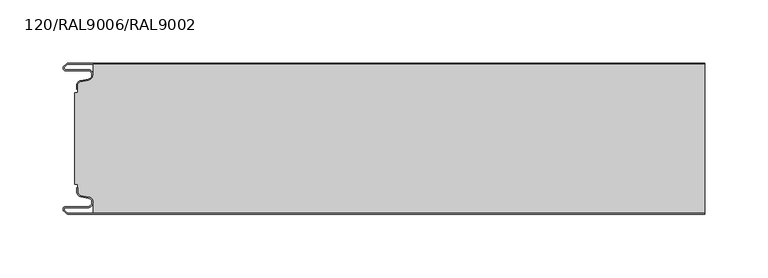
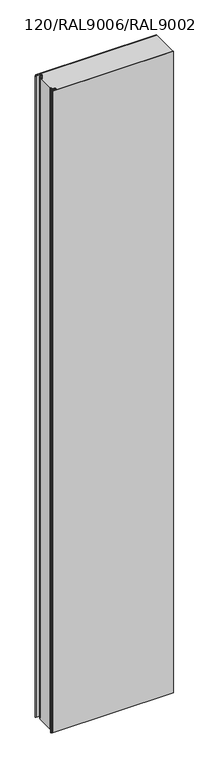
"""IFC4 building model written with IfcOpenShell, lengths in millimetres: plate geometry, TR_C_V_FTV_Panel_cut_GROOVE : 120/RAL9006/RAL9002."""

import ifcopenshell
import ifcopenshell.guid

model = None  # the IFC model being written
_history = None  # IfcOwnerHistory: only IFC2X3 demands one
_inside = {}  # id of a spatial element -> (the spatial element, [elements in it])
_under = {}  # id of a project, library or spatial element -> (it, [spatial elements below it])
_declared = {}  # id of a project -> (the project, [libraries it declares])
_typed = {}  # id of a type object -> (the type object, [elements of that type])
_made_of = {}  # id of a material, layer set ... -> (it, [elements and type objects made of it])


def new_model(schema):
    """Start an empty IFC model of exactly this schema.

    Asked for "IFC4X3", IfcOpenShell would pick the latest addendum, in which some entities
    have other attributes; the version numbers below select the first issue.
    IFC2X3 requires an IfcOwnerHistory on every rooted entity: one is made here for all.
    """
    global model, _history
    if schema == "IFC4X3":
        model = ifcopenshell.file(schema_version=(4, 3, 0, 0))
    else:
        model = ifcopenshell.file(schema=schema)
    _inside.clear()
    _under.clear()
    _declared.clear()
    _typed.clear()
    _made_of.clear()
    _history = None
    if model.schema == "IFC2X3":
        org = make("IfcOrganization", Name="unknown")
        user = make(
            "IfcPersonAndOrganization",
            ThePerson=make("IfcPerson", FamilyName="unknown"),
            TheOrganization=org,
        )
        app = make(
            "IfcApplication",
            ApplicationDeveloper=org,
            Version="unknown",
            ApplicationFullName="unknown",
            ApplicationIdentifier="unknown",
        )
        _history = make(
            "IfcOwnerHistory",
            OwningUser=user,
            OwningApplication=app,
            ChangeAction="ADDED",
            CreationDate=0,
        )
    return model


def make(cls, **values):
    """One entity of the class cls with the attributes given. An attribute that is None is left unset."""
    return model.create_entity(
        cls, **{name: value for name, value in values.items() if value is not None}
    )


def rooted(cls, **values):
    """An entity with a GlobalId (a new one), such as an element, a storey or a relation."""
    return make(cls, GlobalId=ifcopenshell.guid.new(), OwnerHistory=_history, **values)


def si_unit(unit_type, name, prefix=None):
    """IfcSIUnit, for example si_unit("LENGTHUNIT", "METRE", prefix="MILLI")."""
    return make("IfcSIUnit", UnitType=unit_type, Prefix=prefix, Name=name)


def assignment(units):
    """IfcUnitAssignment: the units of a project."""
    return None if units is None else make("IfcUnitAssignment", Units=units)


def point(xyz):
    """IfcCartesianPoint."""
    return None if xyz is None else make("IfcCartesianPoint", Coordinates=xyz)


def direction(xyz):
    """IfcDirection."""
    return None if xyz is None else make("IfcDirection", DirectionRatios=xyz)


def frame(location, z_axis=None, x_axis=None):
    """IfcAxis2Placement3D, a coordinate frame: its origin and axes. An axis left out is left unset."""
    return make(
        "IfcAxis2Placement3D",
        Location=point(location),
        Axis=direction(z_axis),
        RefDirection=direction(x_axis),
    )


def frame_2d(location, x_axis=None):
    """IfcAxis2Placement2D, a coordinate frame in the plane: its origin and x axis."""
    return make(
        "IfcAxis2Placement2D", Location=point(location), RefDirection=direction(x_axis)
    )


def origin():
    """The frame at (0, 0, 0) with its axes left unset."""
    return frame((0.0, 0.0, 0.0))


def origin_with_axes():
    """The frame at (0, 0, 0) with the z axis (0, 0, 1) and the x axis (1, 0, 0) written out."""
    return frame((0.0, 0.0, 0.0), z_axis=(0.0, 0.0, 1.0), x_axis=(1.0, 0.0, 0.0))


def place(relative_to, where):
    """IfcLocalPlacement: puts the frame where relative to a parent placement (None: the world)."""
    return make(
        "IfcLocalPlacement", PlacementRelTo=relative_to, RelativePlacement=where
    )


def context(
    kind, dimensions, precision=None, world=None, true_north=None, identifier=None
):
    """IfcGeometricRepresentationContext, for example the 3D "Model" context."""
    return make(
        "IfcGeometricRepresentationContext",
        ContextIdentifier=identifier,
        ContextType=kind,
        CoordinateSpaceDimension=dimensions,
        Precision=precision,
        WorldCoordinateSystem=world,
        TrueNorth=true_north,
    )


def project(units=None, contexts=None):
    """IfcProject with its units and contexts."""
    return rooted(
        "IfcProject",
        Name="project",
        RepresentationContexts=contexts,
        UnitsInContext=assignment(units),
    )


def spatial(cls, under=None, at=None, **own):
    """A site, building, storey or space (cls), placed at a placement, below another one or the project."""
    s = rooted(cls, ObjectPlacement=at, **own)
    if under is not None:
        _under.setdefault(under.id(), (under, []))[1].append(s)
    return s


def polyline(points):
    """IfcPolyline through the points."""
    return make("IfcPolyline", Points=[point(p) for p in points])


def circle_curve(where, radius):
    """IfcCircle in the frame where."""
    return make("IfcCircle", Position=where, Radius=radius)


def trimmed(basis, trim1, trim2, sense, master):
    """IfcTrimmedCurve: the piece of a basis curve between two trims."""
    return make(
        "IfcTrimmedCurve",
        BasisCurve=basis,
        Trim1=trim1,
        Trim2=trim2,
        SenseAgreement=sense,
        MasterRepresentation=master,
    )


def segment(curve, same_sense, transition):
    """IfcCompositeCurveSegment."""
    return make(
        "IfcCompositeCurveSegment",
        Transition=transition,
        SameSense=same_sense,
        ParentCurve=curve,
    )


def composite_curve(segments, self_intersect=None):
    """IfcCompositeCurve: segments joined end to end."""
    return make("IfcCompositeCurve", Segments=segments, SelfIntersect=self_intersect)


def outline(outer, holes=None, kind="AREA"):
    """IfcArbitraryClosedProfileDef: a profile drawn as a closed curve; with holes, ...WithVoids."""
    if holes is None:
        return make("IfcArbitraryClosedProfileDef", ProfileType=kind, OuterCurve=outer)
    return make(
        "IfcArbitraryProfileDefWithVoids",
        ProfileType=kind,
        OuterCurve=outer,
        InnerCurves=holes,
    )


def extrude(swept, where, along, depth):
    """IfcExtrudedAreaSolid: the profile swept, set in the frame where, extruded along a direction by depth."""
    return make(
        "IfcExtrudedAreaSolid",
        SweptArea=swept,
        Position=where,
        ExtrudedDirection=direction(along),
        Depth=depth,
    )


def shape(context_of_items, identifier, shape_type, items):
    """IfcShapeRepresentation: the items that make up one representation, for example the "Body"."""
    return make(
        "IfcShapeRepresentation",
        ContextOfItems=context_of_items,
        RepresentationIdentifier=identifier,
        RepresentationType=shape_type,
        Items=items,
    )


def source(mapping_origin, context_of_items, identifier, shape_type, items):
    """IfcRepresentationMap: a shape defined once, which mapped items show again and again."""
    return make(
        "IfcRepresentationMap",
        MappingOrigin=mapping_origin,
        MappedRepresentation=shape(context_of_items, identifier, shape_type, items),
    )


def transform(
    local_origin,
    x_axis=None,
    y_axis=None,
    z_axis=None,
    scale=None,
    scale2=None,
    scale3=None,
    uniform=True,
):
    """IfcCartesianTransformationOperator3D, or its non-uniform kind. x_axis, y_axis, z_axis: its Axis1, 2, 3."""
    if uniform:
        return make(
            "IfcCartesianTransformationOperator3D",
            Axis1=direction(x_axis),
            Axis2=direction(y_axis),
            LocalOrigin=point(local_origin),
            Scale=scale,
            Axis3=direction(z_axis),
        )
    return make(
        "IfcCartesianTransformationOperator3DnonUniform",
        Axis1=direction(x_axis),
        Axis2=direction(y_axis),
        LocalOrigin=point(local_origin),
        Scale=scale,
        Axis3=direction(z_axis),
        Scale2=scale2,
        Scale3=scale3,
    )


def mapped(mapping_source, mapping_target):
    """IfcMappedItem: shows the shape of a source again, moved by a transform."""
    return make(
        "IfcMappedItem", MappingSource=mapping_source, MappingTarget=mapping_target
    )


def made_of(thing, what):
    """Note that an element or type object is made of a material, layer set ...; save() writes the relation."""
    if what is not None:
        _made_of.setdefault(what.id(), (what, []))[1].append(thing)
    return thing


def element(
    cls,
    number,
    at=None,
    inside=None,
    cuts=None,
    type_object=None,
    material=None,
    context=None,
    identifier="Body",
    shape_type=None,
    held_by="IfcProductDefinitionShape",
    body=None,
    shapes=None,
    **own,
):
    """One element of the class cls, such as IfcWall. Its Tag is "e" and its number.

    at: its placement. inside: the storey or other place that contains it. cuts: it is an
    opening in that element (IfcRelVoidsElement). A single representation is given by context,
    identifier, shape_type and body (its items); several are given by shapes. held_by: the class
    of the entity that holds the representations. save() writes the other relations.
    """
    e = rooted(cls, Tag="e%d" % number, ObjectPlacement=at, **own)
    if body is not None:
        shapes = [shape(context, identifier, shape_type, body)]
    if shapes is not None:
        e.Representation = make(held_by, Representations=shapes)
    if inside is not None:
        _inside.setdefault(inside.id(), (inside, []))[1].append(e)
    if cuts is not None:
        rooted(
            "IfcRelVoidsElement", RelatingBuildingElement=cuts, RelatedOpeningElement=e
        )
    if type_object is not None:
        _typed.setdefault(type_object.id(), (type_object, []))[1].append(e)
    return made_of(e, material)


def aggregate(whole, parts):
    """IfcRelAggregates: a whole, such as a stair, and the parts it consists of."""
    return rooted("IfcRelAggregates", RelatingObject=whole, RelatedObjects=parts)


def save(model, path):
    """Write the relations noted so far, then the file.

    IfcRelAggregates (storeys below a building ...), IfcRelContainedInSpatialStructure (elements
    in a storey), IfcRelDefinesByType, IfcRelAssociatesMaterial and IfcRelDeclares: one each for
    every whole, place, type object, material and project.
    """
    for whole, parts in _under.values():
        aggregate(whole, parts)
    for where, things in _inside.values():
        rooted(
            "IfcRelContainedInSpatialStructure",
            RelatedElements=things,
            RelatingStructure=where,
        )
    for kind, things in _typed.values():
        rooted("IfcRelDefinesByType", RelatedObjects=things, RelatingType=kind)
    for what, things in _made_of.values():
        rooted("IfcRelAssociatesMaterial", RelatedObjects=things, RelatingMaterial=what)
    for by, libraries in _declared.values():
        rooted("IfcRelDeclares", RelatingContext=by, RelatedDefinitions=libraries)
    model.write(path)


def plate_120_ral9006_ral9002_0a61fb57(model_context):
    return source(origin(), model_context, "Body", "SweptSolid", [
        extrude(outline(composite_curve([segment(trimmed(circle_curve(frame_2d((-255.0186281, -117.25)), 2.75), [point((-255.0186281, -120.0))], [point((-256.9631718, -119.1945436))], False, "CARTESIAN"), True, "CONTINUOUS"), segment(polyline([(-256.9631718, -119.1945436), (-258.8288572, -117.3288582)]), True, "CONTINUOUS"), segment(trimmed(circle_curve(frame_2d((-257.449999, -115.95)), 1.95), [point((-258.8288572, -117.3288582))], [point((-257.449999, -114.0))], False, "CARTESIAN"), True, "CONTINUOUS"), segment(polyline([(-257.449999, -114.0), (-239.849999, -114.0)]), True, "CONTINUOUS"), segment(trimmed(circle_curve(frame_2d((-239.849999, -110.55)), 3.45), [point((-239.849999, -114.0))], [point((-239.2509128, -107.1524133))], True, "CARTESIAN"), True, "CONTINUOUS"), segment(polyline([(-239.2509128, -107.1524133), (-245.3011797, -106.085588)]), True, "CONTINUOUS"), segment(trimmed(circle_curve(frame_2d((-244.649999, -102.3925589)), 3.75), [point((-245.3011797, -106.085588))], [point((-248.399999, -102.3925589))], False, "CARTESIAN"), True, "CONTINUOUS"), segment(polyline([(-248.399999, -102.3925589), (-248.399999, -99.0), (-247.599999, -99.0), (-247.599999, -102.3925589)]), True, "CONTINUOUS"), segment(trimmed(circle_curve(frame_2d((-244.649999, -102.3925589)), 2.95), [point((-247.599999, -102.3925589))], [point((-245.1622611, -105.2977418))], True, "CARTESIAN"), True, "CONTINUOUS"), segment(polyline([(-245.1622611, -105.2977418), (-239.1119942, -106.364567)]), True, "CONTINUOUS"), segment(trimmed(circle_curve(frame_2d((-239.849999, -110.55)), 4.25), [point((-239.1119942, -106.364567))], [point((-239.849999, -114.8))], False, "CARTESIAN"), True, "CONTINUOUS"), segment(polyline([(-239.849999, -114.8), (-257.449999, -114.8)]), True, "CONTINUOUS"), segment(trimmed(circle_curve(frame_2d((-257.449999, -115.95)), 1.15), [point((-257.449999, -114.8))], [point((-258.2631718, -116.7631728))], True, "CARTESIAN"), True, "CONTINUOUS"), segment(polyline([(-258.2631718, -116.7631728), (-256.3974864, -118.6288582)]), True, "CONTINUOUS"), segment(trimmed(circle_curve(frame_2d((-255.0186281, -117.25)), 1.95), [point((-256.3974864, -118.6288582))], [point((-255.0186281, -119.2))], True, "CARTESIAN"), True, "CONTINUOUS"), segment(polyline([(-255.0186281, -119.2), (250.0000002, -119.2), (250.0000002, -120.0), (-255.0186281, -120.0)]), True, "CONTINUOUS")], self_intersect=False)), origin_with_axes(), (0.0, 0.0, 1.0), 2830.0),
        extrude(outline(composite_curve([segment(polyline([(-249.999999, -23.7), (-247.599999, -23.7), (-247.599999, -17.6074411)]), True, "CONTINUOUS"), segment(trimmed(circle_curve(frame_2d((-244.649999, -17.6074411)), 2.95), [point((-247.599999, -17.6074411))], [point((-245.1622611, -14.7022582))], False, "CARTESIAN"), True, "CONTINUOUS"), segment(polyline([(-245.1622611, -14.7022582), (-239.1119942, -13.635433)]), True, "CONTINUOUS"), segment(trimmed(circle_curve(frame_2d((-239.849999, -9.45)), 4.25), [point((-239.1119942, -13.635433))], [point((-235.599999, -9.45))], True, "CARTESIAN"), True, "CONTINUOUS"), segment(polyline([(-235.599999, -9.45), (-235.599999, -0.8), (250.0000002, -0.8), (250.0000002, -119.2), (-235.599999, -119.2), (-235.599999, -110.55)]), True, "CONTINUOUS"), segment(trimmed(circle_curve(frame_2d((-239.849999, -110.55)), 4.25), [point((-235.599999, -110.55))], [point((-239.1119942, -106.364567))], True, "CARTESIAN"), True, "CONTINUOUS"), segment(polyline([(-239.1119942, -106.364567), (-245.1622611, -105.2977418)]), True, "CONTINUOUS"), segment(trimmed(circle_curve(frame_2d((-244.649999, -102.3925589)), 2.95), [point((-245.1622611, -105.2977418))], [point((-247.599999, -102.3925589))], False, "CARTESIAN"), True, "CONTINUOUS"), segment(polyline([(-247.599999, -102.3925589), (-247.599999, -96.3), (-249.999999, -96.3), (-249.999999, -23.7)]), True, "CONTINUOUS")], self_intersect=False)), origin_with_axes(), (0.0, 0.0, 1.0), 2830.0),
        extrude(outline(composite_curve([segment(trimmed(circle_curve(frame_2d((-255.0186281, -2.75)), 1.95), [point((-255.0186281, -0.8))], [point((-256.3974864, -1.3711418))], True, "CARTESIAN"), True, "CONTINUOUS"), segment(polyline([(-256.3974864, -1.3711418), (-258.2631718, -3.2368272)]), True, "CONTINUOUS"), segment(trimmed(circle_curve(frame_2d((-257.449999, -4.05)), 1.15), [point((-258.2631718, -3.2368272))], [point((-257.449999, -5.2))], True, "CARTESIAN"), True, "CONTINUOUS"), segment(polyline([(-257.449999, -5.2), (-239.849999, -5.2)]), True, "CONTINUOUS"), segment(trimmed(circle_curve(frame_2d((-239.849999, -9.45)), 4.25), [point((-239.849999, -5.2))], [point((-239.1119942, -13.635433))], False, "CARTESIAN"), True, "CONTINUOUS"), segment(polyline([(-239.1119942, -13.635433), (-245.1622611, -14.7022582)]), True, "CONTINUOUS"), segment(trimmed(circle_curve(frame_2d((-244.649999, -17.6074411)), 2.95), [point((-245.1622611, -14.7022582))], [point((-247.599999, -17.6074411))], True, "CARTESIAN"), True, "CONTINUOUS"), segment(polyline([(-247.599999, -17.6074411), (-247.599999, -21.0), (-248.399999, -21.0), (-248.399999, -17.6074411)]), True, "CONTINUOUS"), segment(trimmed(circle_curve(frame_2d((-244.649999, -17.6074411)), 3.75), [point((-248.399999, -17.6074411))], [point((-245.3011797, -13.914412))], False, "CARTESIAN"), True, "CONTINUOUS"), segment(polyline([(-245.3011797, -13.914412), (-239.2509128, -12.8475867)]), True, "CONTINUOUS"), segment(trimmed(circle_curve(frame_2d((-239.849999, -9.45)), 3.45), [point((-239.2509128, -12.8475867))], [point((-239.849999, -6.0))], True, "CARTESIAN"), True, "CONTINUOUS"), segment(polyline([(-239.849999, -6.0), (-257.449999, -6.0)]), True, "CONTINUOUS"), segment(trimmed(circle_curve(frame_2d((-257.449999, -4.05)), 1.95), [point((-257.449999, -6.0))], [point((-258.8288572, -2.6711418))], False, "CARTESIAN"), True, "CONTINUOUS"), segment(polyline([(-258.8288572, -2.6711418), (-256.9631718, -0.8054564)]), True, "CONTINUOUS"), segment(trimmed(circle_curve(frame_2d((-255.0186281, -2.75)), 2.75), [point((-256.9631718, -0.8054564))], [point((-255.0186281, 0.0))], False, "CARTESIAN"), True, "CONTINUOUS"), segment(polyline([(-255.0186281, 0.0), (250.0000002, 0.0), (250.0000002, -0.8), (-255.0186281, -0.8)]), True, "CONTINUOUS")], self_intersect=False)), origin_with_axes(), (0.0, 0.0, 1.0), 2830.0),
    ])


if __name__ == "__main__":
    model = new_model("IFC4")
    model_context = context("Model", 3, world=origin())
    ifc_project = project(units=[si_unit("LENGTHUNIT", "METRE", prefix="MILLI")], contexts=[model_context])
    site = spatial("IfcSite", under=ifc_project)
    building = spatial("IfcBuilding", under=site)
    placement = place(None, origin())
    plate_120_ral9006_ral9002_shape = plate_120_ral9006_ral9002_0a61fb57(model_context)
    element("IfcPlate", 1, ObjectType="TR_C_V_FTV_Panel_cut_GROOVE : 120/RAL9006/RAL9002", at=placement, inside=building, context=model_context, shape_type="MappedRepresentation", body=[
        mapped(plate_120_ral9006_ral9002_shape, transform((0.0, 0.0, 0.0), x_axis=(1.0, 0.0, 0.0), y_axis=(0.0, 1.0, 0.0), z_axis=(0.0, 0.0, 1.0))),
    ])
    save(model, "model.ifc")
